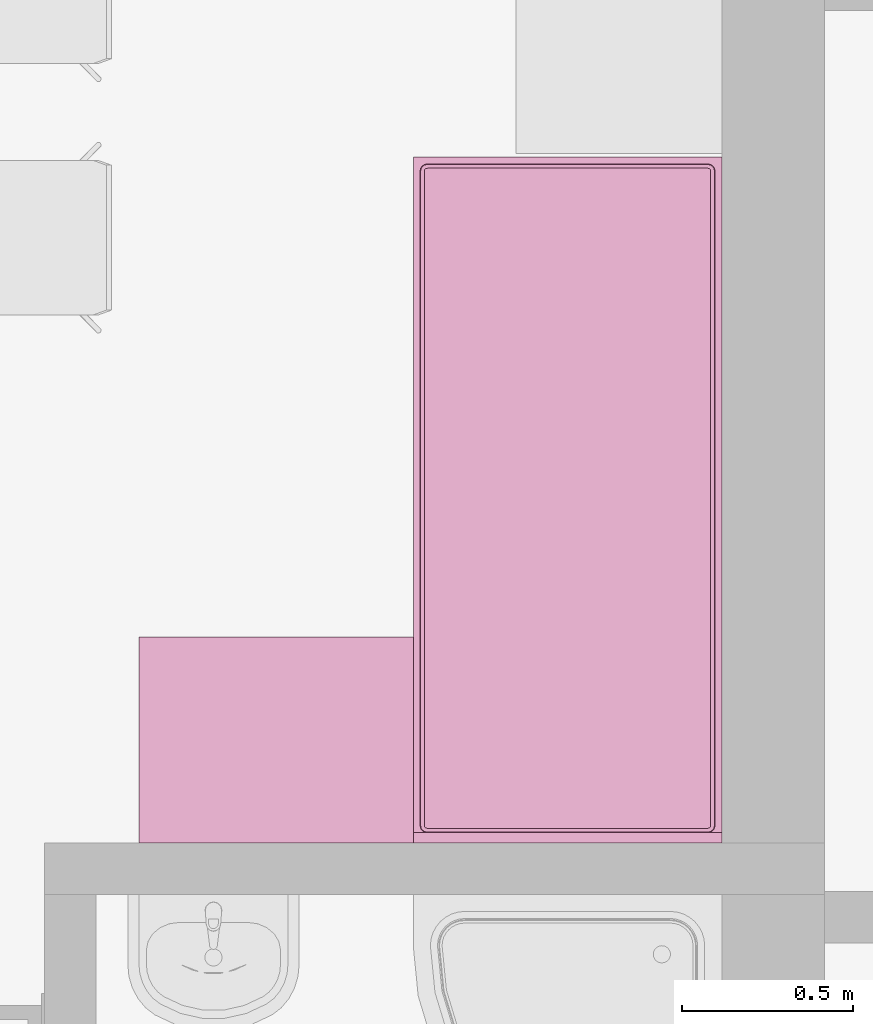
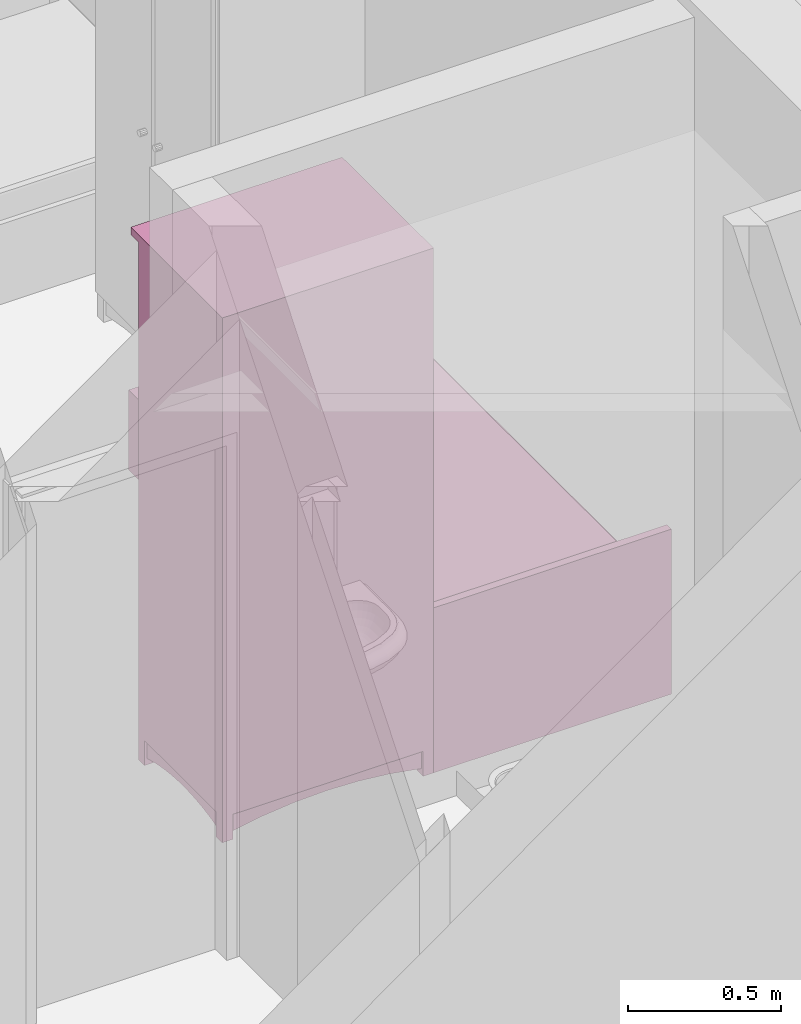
# One storey, part 98 of 165: 2 furnishings.
"""IFC2X3 building model written with IfcOpenShell, lengths in millimetres."""

from ifc_helpers import new_model, entity, si_unit, converted_unit, money_unit, direction, frame, origin_with_axes, place, context, subcontext, project, spatial, faceted_brep, source, transform, mapped, material, material_list, type_object, element, save


model = new_model("IFC2X3")

# Units and contexts
model_context = context("Model", 3, precision=1e-05, world=origin_with_axes(), true_north=direction((0.0, 1.0)))
body_context = subcontext(model_context, "Body", "Model", "MODEL_VIEW")
ifc_project = project(units=[si_unit("LENGTHUNIT", "METRE", prefix="MILLI"), si_unit("AREAUNIT", "SQUARE_METRE"), si_unit("VOLUMEUNIT", "CUBIC_METRE"), converted_unit("PLANEANGLEUNIT", "DEGREE", entity("IfcPlaneAngleMeasure", 0.0174532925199), si_unit("PLANEANGLEUNIT", "RADIAN"), dimensions=[0, 0, 0, 0, 0, 0, 0]), si_unit("SOLIDANGLEUNIT", "STERADIAN"), money_unit("USD"), converted_unit("TIMEUNIT", "Year", entity("IfcTimeMeasure", 31556926.0), si_unit("TIMEUNIT", "SECOND"), dimensions=[0, 0, 0, 0, 0, 0, 0]), si_unit("MASSUNIT", "GRAM"), si_unit("THERMODYNAMICTEMPERATUREUNIT", "DEGREE_CELSIUS"), si_unit("LUMINOUSINTENSITYUNIT", "LUMEN")], contexts=[model_context])

# Site, building, storey
site_placement = place(None, origin_with_axes())
site = spatial("IfcSite", under=ifc_project, at=site_placement, Name="Site", CompositionType="ELEMENT")
building_placement = place(site_placement, origin_with_axes())
building = spatial("IfcBuilding", under=site, at=building_placement, Name="Building", CompositionType="ELEMENT")
storey_placement = place(building_placement, frame((0.0, 0.0, 6300.0), z_axis=(0.0, 0.0, 1.0), x_axis=(1.0, 0.0, 0.0)))
storey = spatial("IfcBuildingStorey", under=building, at=storey_placement, Name="4KORRUS", CompositionType="ELEMENT", Elevation=6300.0)

# Furnishings
ifc_material = material(Name="Background")
ifc_material_list = material_list([ifc_material])
furnishing_element_type_1 = type_object("IfcFurnishingElementType", Name="Cupboard 19")
shared_shape_1 = source(origin_with_axes(), body_context, "Body", "Brep", [
    faceted_brep([(-780.0, 600.0, 120.0), (-780.0, 580.0, 120.0), (-780.0, 580.0, 2050.0), (-780.0, 600.0, 2050.0), (-20.0, 600.0, 120.0), (-20.0, 580.0, 120.0), (-20.0, 580.0, 2050.0), (-20.0, 600.0, 2050.0)], [[[0, 1, 2, 3]], [[0, 4, 5, 1]], [[1, 5, 6, 2]], [[3, 2, 6, 7]], [[4, 0, 3, 7]], [[5, 4, 7, 6]]]),
    faceted_brep([(0.0, 50.0, 100.0), (-20.0, 50.0, 100.0), (-20.0, 600.0, 100.0), (0.0, 600.0, 100.0), (0.0, 50.0, 2070.0), (-20.0, 50.0, 2070.0), (-20.0, 600.0, 2070.0), (0.0, 600.0, 2070.0)], [[[0, 1, 2, 3]], [[1, 0, 4, 5]], [[2, 1, 5, 6]], [[3, 2, 6, 7]], [[0, 3, 7, 4]], [[5, 4, 7, 6]]]),
    faceted_brep([(-780.0, 50.0, 100.0), (-800.0, 50.0, 100.0), (-800.0, 600.0, 100.0), (-780.0, 600.0, 100.0), (-780.0, 50.0, 2070.0), (-800.0, 50.0, 2070.0), (-800.0, 600.0, 2070.0), (-780.0, 600.0, 2070.0)], [[[0, 1, 2, 3]], [[1, 0, 4, 5]], [[2, 1, 5, 6]], [[3, 2, 6, 7]], [[0, 3, 7, 4]], [[5, 4, 7, 6]]]),
    faceted_brep([(-20.0, 50.0, 100.0), (-780.0, 50.0, 100.0), (-780.0, 600.0, 100.0), (-20.0, 600.0, 100.0), (-20.0, 50.0, 120.0), (-780.0, 50.0, 120.0), (-780.0, 600.0, 120.0), (-20.0, 600.0, 120.0)], [[[0, 1, 2, 3]], [[1, 0, 4, 5]], [[2, 1, 5, 6]], [[3, 2, 6, 7]], [[0, 3, 7, 4]], [[5, 4, 7, 6]]]),
    faceted_brep([(-20.0, 50.0, 2050.0), (-780.0, 50.0, 2050.0), (-780.0, 600.0, 2050.0), (-20.0, 600.0, 2050.0), (-20.0, 50.0, 2070.0), (-780.0, 50.0, 2070.0), (-780.0, 600.0, 2070.0), (-20.0, 600.0, 2070.0)], [[[0, 1, 2, 3]], [[1, 0, 4, 5]], [[2, 1, 5, 6]], [[3, 2, 6, 7]], [[0, 3, 7, 4]], [[5, 4, 7, 6]]]),
    faceted_brep([(0.0, 600.0, 2070.0), (0.0, 600.0, 2100.0), (0.0, 0.0, 2100.0), (0.0, 0.0, 2070.0), (-800.0, 600.0, 2070.0), (-800.0, 600.0, 2100.0), (-800.0, 0.0, 2100.0), (-800.0, 0.0, 2070.0)], [[[0, 1, 2, 3]], [[4, 5, 1, 0]], [[1, 5, 6, 2]], [[3, 2, 6, 7]], [[0, 3, 7, 4]], [[7, 6, 5, 4]]]),
    faceted_brep([(-760.0, 590.0, 25.0), (-640.962, 590.0, 45.8), (-640.962, 570.0, 45.8), (-760.0, 570.0, 25.0), (-760.0, 590.0, 100.0), (-40.0, 590.0, 100.0), (-40.0, 590.0, 25.0), (-159.038, 590.0, 45.8), (-279.23, 590.0, 58.32), (-400.0, 590.0, 62.5), (-520.77, 590.0, 58.32), (-520.77, 570.0, 58.32), (-400.0, 570.0, 62.5), (-279.23, 570.0, 58.32), (-159.038, 570.0, 45.8), (-40.0, 570.0, 25.0), (-40.0, 570.0, 100.0), (-760.0, 570.0, 100.0)], [[[0, 1, 2, 3]], [[0, 4, 5, 6, 7, 8, 9, 10, 1]], [[1, 10, 11, 2]], [[3, 2, 11, 12, 13, 14, 15, 16, 17]], [[4, 0, 3, 17]], [[5, 4, 17, 16]], [[6, 5, 16, 15]], [[7, 6, 15, 14]], [[8, 7, 14, 13]], [[9, 8, 13, 12]], [[10, 9, 12, 11]]]),
    faceted_brep([(-760.0, 80.0, 25.0), (-640.962, 80.0, 45.8), (-640.962, 60.0, 45.8), (-760.0, 60.0, 25.0), (-760.0, 80.0, 100.0), (-40.0, 80.0, 100.0), (-40.0, 80.0, 25.0), (-159.038, 80.0, 45.8), (-279.23, 80.0, 58.32), (-400.0, 80.0, 62.5), (-520.77, 80.0, 58.32), (-520.77, 60.0, 58.32), (-400.0, 60.0, 62.5), (-279.23, 60.0, 58.32), (-159.038, 60.0, 45.8), (-40.0, 60.0, 25.0), (-40.0, 60.0, 100.0), (-760.0, 60.0, 100.0)], [[[0, 1, 2, 3]], [[0, 4, 5, 6, 7, 8, 9, 10, 1]], [[1, 10, 11, 2]], [[3, 2, 11, 12, 13, 14, 15, 16, 17]], [[4, 0, 3, 17]], [[5, 4, 17, 16]], [[6, 5, 16, 15]], [[7, 6, 15, 14]], [[8, 7, 14, 13]], [[9, 8, 13, 12]], [[10, 9, 12, 11]]]),
    faceted_brep([(-790.0, 90.0, 25.0), (-790.0, 141.266, 38.072), (-770.0, 141.266, 38.072), (-770.0, 90.0, 25.0), (-790.0, 90.0, 100.0), (-790.0, 560.0, 100.0), (-790.0, 560.0, 25.0), (-790.0, 508.734, 38.072), (-790.0, 456.752, 47.92), (-790.0, 404.257, 54.508), (-790.0, 351.453, 57.808), (-790.0, 298.547, 57.808), (-790.0, 245.743, 54.508), (-790.0, 193.248, 47.92), (-770.0, 193.248, 47.92), (-770.0, 245.743, 54.508), (-770.0, 298.547, 57.808), (-770.0, 351.453, 57.808), (-770.0, 404.257, 54.508), (-770.0, 456.752, 47.92), (-770.0, 508.734, 38.072), (-770.0, 560.0, 25.0), (-770.0, 560.0, 100.0), (-770.0, 90.0, 100.0)], [[[0, 1, 2, 3]], [[0, 4, 5, 6, 7, 8, 9, 10, 11, 12, 13, 1]], [[1, 13, 14, 2]], [[3, 2, 14, 15, 16, 17, 18, 19, 20, 21, 22, 23]], [[4, 0, 3, 23]], [[5, 4, 23, 22]], [[6, 5, 22, 21]], [[7, 6, 21, 20]], [[8, 7, 20, 19]], [[9, 8, 19, 18]], [[10, 9, 18, 17]], [[11, 10, 17, 16]], [[12, 11, 16, 15]], [[13, 12, 15, 14]]]),
    faceted_brep([(-30.0, 90.0, 25.0), (-30.0, 141.266, 38.072), (-10.0, 141.266, 38.072), (-10.0, 90.0, 25.0), (-30.0, 90.0, 100.0), (-30.0, 560.0, 100.0), (-30.0, 560.0, 25.0), (-30.0, 508.734, 38.072), (-30.0, 456.752, 47.92), (-30.0, 404.257, 54.508), (-30.0, 351.453, 57.808), (-30.0, 298.547, 57.808), (-30.0, 245.743, 54.508), (-30.0, 193.248, 47.92), (-10.0, 193.248, 47.92), (-10.0, 245.743, 54.508), (-10.0, 298.547, 57.808), (-10.0, 351.453, 57.808), (-10.0, 404.257, 54.508), (-10.0, 456.752, 47.92), (-10.0, 508.734, 38.072), (-10.0, 560.0, 25.0), (-10.0, 560.0, 100.0), (-10.0, 90.0, 100.0)], [[[0, 1, 2, 3]], [[0, 4, 5, 6, 7, 8, 9, 10, 11, 12, 13, 1]], [[1, 13, 14, 2]], [[3, 2, 14, 15, 16, 17, 18, 19, 20, 21, 22, 23]], [[4, 0, 3, 23]], [[5, 4, 23, 22]], [[6, 5, 22, 21]], [[7, 6, 21, 20]], [[8, 7, 20, 19]], [[9, 8, 19, 18]], [[10, 9, 18, 17]], [[11, 10, 17, 16]], [[12, 11, 16, 15]], [[13, 12, 15, 14]]]),
    faceted_brep([(-760.0, 560.0, 0.0), (-760.0, 600.0, 0.0), (-760.0, 600.0, 100.0), (-760.0, 560.0, 100.0), (-800.0, 560.0, 0.0), (-800.0, 600.0, 0.0), (-800.0, 600.0, 100.0), (-800.0, 560.0, 100.0)], [[[0, 1, 2, 3]], [[0, 4, 5, 1]], [[1, 5, 6, 2]], [[3, 2, 6, 7]], [[4, 0, 3, 7]], [[5, 4, 7, 6]]]),
    faceted_brep([(0.0, 560.0, 0.0), (0.0, 600.0, 0.0), (0.0, 600.0, 100.0), (0.0, 560.0, 100.0), (-40.0, 560.0, 0.0), (-40.0, 600.0, 0.0), (-40.0, 600.0, 100.0), (-40.0, 560.0, 100.0)], [[[0, 1, 2, 3]], [[0, 4, 5, 1]], [[1, 5, 6, 2]], [[3, 2, 6, 7]], [[4, 0, 3, 7]], [[5, 4, 7, 6]]]),
    faceted_brep([(-760.0, 50.0, 0.0), (-760.0, 90.0, 0.0), (-760.0, 90.0, 100.0), (-760.0, 50.0, 100.0), (-800.0, 50.0, 0.0), (-800.0, 90.0, 0.0), (-800.0, 90.0, 100.0), (-800.0, 50.0, 100.0)], [[[0, 1, 2, 3]], [[0, 4, 5, 1]], [[1, 5, 6, 2]], [[3, 2, 6, 7]], [[4, 0, 3, 7]], [[5, 4, 7, 6]]]),
    faceted_brep([(0.0, 50.0, 0.0), (0.0, 90.0, 0.0), (0.0, 90.0, 100.0), (0.0, 50.0, 100.0), (-40.0, 50.0, 0.0), (-40.0, 90.0, 0.0), (-40.0, 90.0, 100.0), (-40.0, 50.0, 100.0)], [[[0, 1, 2, 3]], [[0, 4, 5, 1]], [[1, 5, 6, 2]], [[3, 2, 6, 7]], [[4, 0, 3, 7]], [[5, 4, 7, 6]]]),
    faceted_brep([(-780.0, 580.0, 587.5), (-780.0, 50.0, 587.5), (-780.0, 50.0, 607.5), (-780.0, 580.0, 607.5), (-20.0, 580.0, 587.5), (-20.0, 50.0, 587.5), (-20.0, 50.0, 607.5), (-20.0, 580.0, 607.5)], [[[0, 1, 2, 3]], [[0, 4, 5, 1]], [[1, 5, 6, 2]], [[3, 2, 6, 7]], [[4, 0, 3, 7]], [[5, 4, 7, 6]]]),
    faceted_brep([(-780.0, 580.0, 1075.0), (-780.0, 50.0, 1075.0), (-780.0, 50.0, 1095.0), (-780.0, 580.0, 1095.0), (-20.0, 580.0, 1075.0), (-20.0, 50.0, 1075.0), (-20.0, 50.0, 1095.0), (-20.0, 580.0, 1095.0)], [[[0, 1, 2, 3]], [[0, 4, 5, 1]], [[1, 5, 6, 2]], [[3, 2, 6, 7]], [[4, 0, 3, 7]], [[5, 4, 7, 6]]]),
    faceted_brep([(-780.0, 580.0, 1562.5), (-780.0, 50.0, 1562.5), (-780.0, 50.0, 1582.5), (-780.0, 580.0, 1582.5), (-20.0, 580.0, 1562.5), (-20.0, 50.0, 1562.5), (-20.0, 50.0, 1582.5), (-20.0, 580.0, 1582.5)], [[[0, 1, 2, 3]], [[0, 4, 5, 1]], [[1, 5, 6, 2]], [[3, 2, 6, 7]], [[4, 0, 3, 7]], [[5, 4, 7, 6]]]),
    faceted_brep([(-789.5, 50.0, 110.5), (-789.5, 50.0, 2059.5), (-400.5, 50.0, 2059.5), (-400.5, 50.0, 110.5), (-789.5, 40.0, 110.5), (-789.5, 40.0, 2059.5), (-400.5, 40.0, 2059.5), (-400.5, 40.0, 110.5), (-779.5, 30.0, 120.5), (-779.5, 30.0, 2049.5), (-410.5, 30.0, 2049.5), (-410.5, 30.0, 120.5)], [[[0, 1, 2, 3]], [[1, 0, 4, 5]], [[2, 1, 5, 6]], [[3, 2, 6, 7]], [[0, 3, 7, 4]], [[5, 4, 8, 9]], [[6, 5, 9, 10]], [[7, 6, 10, 11]], [[4, 7, 11, 8]], [[10, 9, 8, 11]]]),
    faceted_brep([(-399.5, 50.0, 110.5), (-399.5, 50.0, 2059.5), (-10.5, 50.0, 2059.5), (-10.5, 50.0, 110.5), (-399.5, 40.0, 110.5), (-399.5, 40.0, 2059.5), (-10.5, 40.0, 2059.5), (-10.5, 40.0, 110.5), (-389.5, 30.0, 120.5), (-389.5, 30.0, 2049.5), (-20.5, 30.0, 2049.5), (-20.5, 30.0, 120.5)], [[[0, 1, 2, 3]], [[1, 0, 4, 5]], [[2, 1, 5, 6]], [[3, 2, 6, 7]], [[0, 3, 7, 4]], [[5, 4, 8, 9]], [[6, 5, 9, 10]], [[7, 6, 10, 11]], [[4, 7, 11, 8]], [[10, 9, 8, 11]]]),
    faceted_brep([(-339.608, 30.0, 954.0), (-344.0, 30.0, 949.608), (-350.0, 30.0, 948.0), (-356.0, 30.0, 949.608), (-360.392, 30.0, 954.0), (-362.0, 30.0, 960.0), (-360.392, 30.0, 966.0), (-356.0, 30.0, 970.392), (-350.0, 30.0, 972.0), (-344.0, 30.0, 970.392), (-339.608, 30.0, 966.0), (-338.0, 30.0, 960.0), (-339.608, 5.0, 954.0), (-344.0, 5.0, 949.608), (-350.0, 5.0, 948.0), (-356.0, 5.0, 949.608), (-360.392, 5.0, 954.0), (-362.0, 5.0, 960.0), (-360.392, 5.0, 966.0), (-356.0, 5.0, 970.392), (-350.0, 5.0, 972.0), (-344.0, 5.0, 970.392), (-339.608, 5.0, 966.0), (-338.0, 5.0, 960.0)], [[[0, 1, 2, 3, 4, 5, 6, 7, 8, 9, 10, 11]], [[1, 0, 12, 13]], [[2, 1, 13, 14]], [[3, 2, 14, 15]], [[4, 3, 15, 16]], [[5, 4, 16, 17]], [[6, 5, 17, 18]], [[7, 6, 18, 19]], [[8, 7, 19, 20]], [[9, 8, 20, 21]], [[10, 9, 21, 22]], [[11, 10, 22, 23]], [[0, 11, 23, 12]], [[12, 23, 22, 21, 20, 19, 18, 17, 16, 15, 14, 13]]]),
    faceted_brep([(-460.392, 30.0, 954.0), (-462.0, 30.0, 960.0), (-460.392, 30.0, 966.0), (-456.0, 30.0, 970.392), (-450.0, 30.0, 972.0), (-444.0, 30.0, 970.392), (-439.608, 30.0, 966.0), (-438.0, 30.0, 960.0), (-439.608, 30.0, 954.0), (-444.0, 30.0, 949.608), (-450.0, 30.0, 948.0), (-456.0, 30.0, 949.608), (-460.392, 5.0, 954.0), (-462.0, 5.0, 960.0), (-460.392, 5.0, 966.0), (-456.0, 5.0, 970.392), (-450.0, 5.0, 972.0), (-444.0, 5.0, 970.392), (-439.608, 5.0, 966.0), (-438.0, 5.0, 960.0), (-439.608, 5.0, 954.0), (-444.0, 5.0, 949.608), (-450.0, 5.0, 948.0), (-456.0, 5.0, 949.608)], [[[0, 1, 2, 3, 4, 5, 6, 7, 8, 9, 10, 11]], [[0, 12, 13, 1]], [[1, 13, 14, 2]], [[2, 14, 15, 3]], [[3, 15, 16, 4]], [[4, 16, 17, 5]], [[5, 17, 18, 6]], [[6, 18, 19, 7]], [[7, 19, 20, 8]], [[8, 20, 21, 9]], [[9, 21, 22, 10]], [[10, 22, 23, 11]], [[11, 23, 12, 0]], [[12, 23, 22, 21, 20, 19, 18, 17, 16, 15, 14, 13]]]),
])
furnishing_1_placement = place(storey_placement, frame((-25990.2967033, -8617.37850445, 0.0), z_axis=(0.0, 0.0, 1.0), x_axis=(-1.0, 0.0, 0.0)))
element("IfcFurnishingElement", 1, at=furnishing_1_placement, inside=storey, type_object=furnishing_element_type_1, material=ifc_material_list, Name="FU - 014", context=body_context, shape_type="MappedRepresentation", body=[
    mapped(shared_shape_1, transform((0.0, 0.0, 0.0))),
])
furnishing_element_type_2 = type_object("IfcFurnishingElementType", Name="Bed 19")
shared_shape_2 = source(origin_with_axes(), body_context, "Body", "Brep", [
    faceted_brep([(-900.0, 1970.0, 0.0), (-900.0, 2000.0, 0.0), (0.0, 2000.0, 0.0), (0.0, 1970.0, 0.0), (-900.0, 1970.0, 660.0), (-900.0, 2000.0, 660.0), (0.0, 2000.0, 660.0), (0.0, 1970.0, 660.0)], [[[0, 1, 2, 3]], [[0, 4, 5, 1]], [[1, 5, 6, 2]], [[2, 6, 7, 3]], [[3, 7, 4, 0]], [[7, 6, 5, 4]]]),
    faceted_brep([(-900.0, 0.0, 0.0), (-900.0, 1970.0, 0.0), (0.0, 1970.0, 0.0), (0.0, 0.0, 0.0), (-900.0, 0.0, 320.0), (-900.0, 1970.0, 320.0), (0.0, 1970.0, 320.0), (0.0, 0.0, 320.0)], [[[0, 1, 2, 3]], [[0, 4, 5, 1]], [[1, 5, 6, 2]], [[2, 6, 7, 3]], [[3, 7, 4, 0]], [[7, 6, 5, 4]]]),
    faceted_brep([(-905.0, 10.0, 30.0), (-905.0, 695.0, 30.0), (-900.0, 695.0, 30.0), (-900.0, 10.0, 30.0), (-905.0, 10.0, 290.0), (-905.0, 695.0, 290.0), (-900.0, 695.0, 290.0), (-900.0, 10.0, 290.0)], [[[0, 1, 2, 3]], [[0, 4, 5, 1]], [[1, 5, 6, 2]], [[2, 6, 7, 3]], [[3, 7, 4, 0]], [[7, 6, 5, 4]]]),
    faceted_brep([(-935.0, 307.5, 150.0), (-935.0, 397.5, 150.0), (-905.0, 397.5, 150.0), (-905.0, 307.5, 150.0), (-935.0, 307.5, 170.0), (-935.0, 397.5, 170.0), (-905.0, 397.5, 170.0), (-905.0, 307.5, 170.0)], [[[0, 1, 2, 3]], [[0, 4, 5, 1]], [[1, 5, 6, 2]], [[2, 6, 7, 3]], [[3, 7, 4, 0]], [[7, 6, 5, 4]]]),
    faceted_brep([(-905.0, 705.0, 30.0), (-905.0, 1390.0, 30.0), (-900.0, 1390.0, 30.0), (-900.0, 705.0, 30.0), (-905.0, 705.0, 290.0), (-905.0, 1390.0, 290.0), (-900.0, 1390.0, 290.0), (-900.0, 705.0, 290.0)], [[[0, 1, 2, 3]], [[0, 4, 5, 1]], [[1, 5, 6, 2]], [[2, 6, 7, 3]], [[3, 7, 4, 0]], [[7, 6, 5, 4]]]),
    faceted_brep([(-935.0, 1002.5, 150.0), (-935.0, 1092.5, 150.0), (-905.0, 1092.5, 150.0), (-905.0, 1002.5, 150.0), (-935.0, 1002.5, 170.0), (-935.0, 1092.5, 170.0), (-905.0, 1092.5, 170.0), (-905.0, 1002.5, 170.0)], [[[0, 1, 2, 3]], [[0, 4, 5, 1]], [[1, 5, 6, 2]], [[2, 6, 7, 3]], [[3, 7, 4, 0]], [[7, 6, 5, 4]]]),
    faceted_brep([(-20.0, 40.0, 350.0), (-21.522, 32.346, 350.0), (-25.858, 25.858, 350.0), (-32.346, 21.522, 350.0), (-40.0, 20.0, 350.0), (-860.0, 20.0, 350.0), (-867.654, 21.522, 350.0), (-874.142, 25.858, 350.0), (-878.478, 32.346, 350.0), (-880.0, 40.0, 350.0), (-880.0, 1950.0, 350.0), (-878.478, 1957.654, 350.0), (-874.142, 1964.142, 350.0), (-867.654, 1968.478, 350.0), (-860.0, 1970.0, 350.0), (-40.0, 1970.0, 350.0), (-32.346, 1968.478, 350.0), (-25.858, 1964.142, 350.0), (-21.522, 1957.654, 350.0), (-20.0, 1950.0, 350.0), (-20.0, 40.0, 420.0), (-21.522, 32.346, 420.0), (-25.858, 25.858, 420.0), (-32.346, 21.522, 420.0), (-40.0, 20.0, 420.0), (-860.0, 20.0, 420.0), (-867.654, 21.522, 420.0), (-874.142, 25.858, 420.0), (-878.478, 32.346, 420.0), (-880.0, 40.0, 420.0), (-880.0, 1950.0, 420.0), (-878.478, 1957.654, 420.0), (-874.142, 1964.142, 420.0), (-867.654, 1968.478, 420.0), (-860.0, 1970.0, 420.0), (-40.0, 1970.0, 420.0), (-32.346, 1968.478, 420.0), (-25.858, 1964.142, 420.0), (-21.522, 1957.654, 420.0), (-20.0, 1950.0, 420.0), (-21.522, 40.15, 427.654), (-22.956, 32.94, 427.654), (-26.955, 26.955, 427.654), (-32.94, 22.956, 427.654), (-40.15, 21.522, 427.654), (-859.85, 21.522, 427.654), (-867.06, 22.956, 427.654), (-873.045, 26.955, 427.654), (-877.044, 32.94, 427.654), (-878.478, 40.15, 427.654), (-878.478, 1949.85, 427.654), (-877.044, 1957.06, 427.654), (-873.045, 1963.045, 427.654), (-867.06, 1967.044, 427.654), (-859.85, 1968.478, 427.654), (-40.15, 1968.478, 427.654), (-32.94, 1967.044, 427.654), (-26.955, 1963.045, 427.654), (-22.956, 1957.06, 427.654), (-21.522, 1949.85, 427.654), (-32.346, 41.216, 438.478), (-33.152, 37.164, 438.478), (-34.759, 34.759, 438.478), (-37.164, 33.152, 438.478), (-41.216, 32.346, 438.478), (-858.784, 32.346, 438.478), (-862.836, 33.152, 438.478), (-865.241, 34.759, 438.478), (-866.848, 37.164, 438.478), (-867.654, 41.216, 438.478), (-867.654, 1948.784, 438.478), (-866.848, 1952.836, 438.478), (-865.241, 1955.241, 438.478), (-862.836, 1956.848, 438.478), (-858.784, 1957.654, 438.478), (-41.216, 1957.654, 438.478), (-37.164, 1956.848, 438.478), (-34.759, 1955.241, 438.478), (-33.152, 1952.836, 438.478), (-32.346, 1948.784, 438.478), (-40.0, 41.97, 440.0), (-40.327, 40.327, 440.0), (-40.0, 40.0, 439.924), (-41.97, 40.0, 440.0), (-858.03, 40.0, 440.0), (-859.673, 40.327, 440.0), (-860.0, 40.0, 439.924), (-860.0, 41.97, 440.0), (-860.0, 1948.03, 440.0), (-859.673, 1949.673, 440.0), (-860.0, 1950.0, 439.924), (-858.03, 1950.0, 440.0), (-41.97, 1950.0, 440.0), (-40.327, 1949.673, 440.0), (-40.0, 1950.0, 439.924), (-40.0, 1948.03, 440.0)], [[[0, 1, 2, 3, 4, 5, 6, 7, 8, 9, 10, 11, 12, 13, 14, 15, 16, 17, 18, 19]], [[0, 20, 21, 1]], [[1, 21, 22, 2]], [[2, 22, 23, 3]], [[3, 23, 24, 4]], [[4, 24, 25, 5]], [[5, 25, 26, 6]], [[6, 26, 27, 7]], [[7, 27, 28, 8]], [[8, 28, 29, 9]], [[9, 29, 30, 10]], [[10, 30, 31, 11]], [[11, 31, 32, 12]], [[12, 32, 33, 13]], [[13, 33, 34, 14]], [[14, 34, 35, 15]], [[15, 35, 36, 16]], [[16, 36, 37, 17]], [[17, 37, 38, 18]], [[18, 38, 39, 19]], [[19, 39, 20, 0]], [[20, 40, 41, 21]], [[21, 41, 42, 22]], [[22, 42, 43, 23]], [[23, 43, 44, 24]], [[24, 44, 45, 25]], [[25, 45, 46, 26]], [[26, 46, 47, 27]], [[27, 47, 48, 28]], [[28, 48, 49, 29]], [[29, 49, 50, 30]], [[30, 50, 51, 31]], [[31, 51, 52, 32]], [[32, 52, 53, 33]], [[33, 53, 54, 34]], [[34, 54, 55, 35]], [[35, 55, 56, 36]], [[36, 56, 57, 37]], [[37, 57, 58, 38]], [[38, 58, 59, 39]], [[39, 59, 40, 20]], [[40, 60, 61, 41]], [[41, 61, 62, 42]], [[42, 62, 63, 43]], [[43, 63, 64, 44]], [[44, 64, 65, 45]], [[45, 65, 66, 46]], [[46, 66, 67, 47]], [[47, 67, 68, 48]], [[48, 68, 69, 49]], [[49, 69, 70, 50]], [[50, 70, 71, 51]], [[51, 71, 72, 52]], [[52, 72, 73, 53]], [[53, 73, 74, 54]], [[54, 74, 75, 55]], [[55, 75, 76, 56]], [[56, 76, 77, 57]], [[57, 77, 78, 58]], [[58, 78, 79, 59]], [[59, 79, 60, 40]], [[60, 80, 81, 82, 61]], [[61, 82, 62]], [[62, 82, 63]], [[63, 82, 81, 83, 64]], [[64, 83, 84, 65]], [[65, 84, 85, 86, 66]], [[66, 86, 67]], [[67, 86, 68]], [[68, 86, 85, 87, 69]], [[69, 87, 88, 70]], [[70, 88, 89, 90, 71]], [[71, 90, 72]], [[72, 90, 73]], [[73, 90, 89, 91, 74]], [[74, 91, 92, 75]], [[75, 92, 93, 94, 76]], [[76, 94, 77]], [[77, 94, 78]], [[78, 94, 93, 95, 79]], [[79, 95, 80, 60]], [[95, 93, 92, 91, 89, 88, 87, 85, 84, 83, 81, 80]]]),
    faceted_brep([(-20.0, 40.0, 350.0), (-20.0, 1950.0, 350.0), (-21.522, 1957.654, 350.0), (-25.858, 1964.142, 350.0), (-32.346, 1968.478, 350.0), (-40.0, 1970.0, 350.0), (-860.0, 1970.0, 350.0), (-867.654, 1968.478, 350.0), (-874.142, 1964.142, 350.0), (-878.478, 1957.654, 350.0), (-880.0, 1950.0, 350.0), (-880.0, 40.0, 350.0), (-878.478, 32.346, 350.0), (-874.142, 25.858, 350.0), (-867.654, 21.522, 350.0), (-860.0, 20.0, 350.0), (-40.0, 20.0, 350.0), (-32.346, 21.522, 350.0), (-25.858, 25.858, 350.0), (-21.522, 32.346, 350.0), (-20.0, 40.0, 320.0), (-20.0, 1950.0, 320.0), (-21.522, 1957.654, 320.0), (-25.858, 1964.142, 320.0), (-32.346, 1968.478, 320.0), (-40.0, 1970.0, 320.0), (-860.0, 1970.0, 320.0), (-867.654, 1968.478, 320.0), (-874.142, 1964.142, 320.0), (-878.478, 1957.654, 320.0), (-880.0, 1950.0, 320.0), (-880.0, 40.0, 320.0), (-878.478, 32.346, 320.0), (-874.142, 25.858, 320.0), (-867.654, 21.522, 320.0), (-860.0, 20.0, 320.0), (-40.0, 20.0, 320.0), (-32.346, 21.522, 320.0), (-25.858, 25.858, 320.0), (-21.522, 32.346, 320.0)], [[[0, 1, 2, 3, 4, 5, 6, 7, 8, 9, 10, 11, 12, 13, 14, 15, 16, 17, 18, 19]], [[1, 0, 20, 21]], [[2, 1, 21, 22]], [[3, 2, 22, 23]], [[4, 3, 23, 24]], [[5, 4, 24, 25]], [[6, 5, 25, 26]], [[7, 6, 26, 27]], [[8, 7, 27, 28]], [[9, 8, 28, 29]], [[10, 9, 29, 30]], [[11, 10, 30, 31]], [[12, 11, 31, 32]], [[13, 12, 32, 33]], [[14, 13, 33, 34]], [[15, 14, 34, 35]], [[16, 15, 35, 36]], [[17, 16, 36, 37]], [[18, 17, 37, 38]], [[19, 18, 38, 39]], [[0, 19, 39, 20]], [[20, 39, 38, 37, 36, 35, 34, 33, 32, 31, 30, 29, 28, 27, 26, 25, 24, 23, 22, 21]]]),
])
furnishing_2_placement = place(storey_placement, frame((-25190.2967033, -7217.37850445, 0.0), z_axis=(0.0, 0.0, 1.0), x_axis=(-1.0, 0.0, 0.0)))
element("IfcFurnishingElement", 2, at=furnishing_2_placement, inside=storey, type_object=furnishing_element_type_2, material=ifc_material_list, Name="FU - 013", context=body_context, shape_type="MappedRepresentation", body=[
    mapped(shared_shape_2, transform((0.0, 0.0, 0.0))),
])

save(model, "model.ifc")
